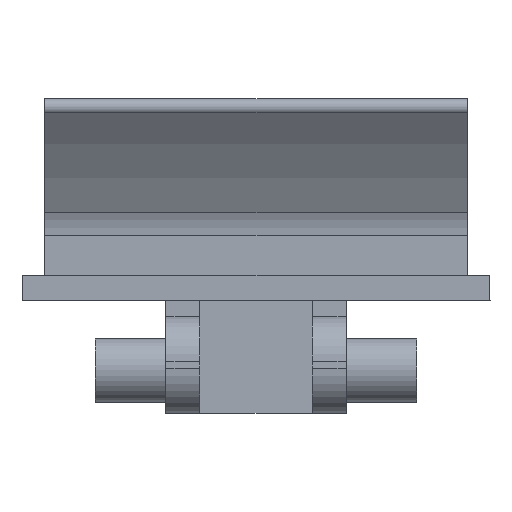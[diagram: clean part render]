
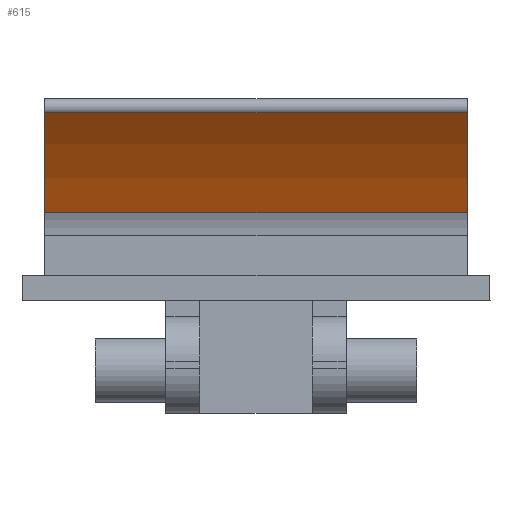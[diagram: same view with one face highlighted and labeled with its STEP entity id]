
A CAD part, front view. The second image highlights one B-rep face of the part: STEP entity #615.
In plain terms, the highlighted cylindrical face has radius 79.492 mm (diameter 158.984 mm), a partial arc.
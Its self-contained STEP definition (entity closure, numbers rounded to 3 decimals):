
#526 = VERTEX_POINT ( 'NONE', #1572 ) ;
#538 = ORIENTED_EDGE ( 'NONE', *, *, #546, .T. ) ;
#541 = EDGE_CURVE ( 'NONE', #526, #547, #1606, .T. ) ;
#545 = EDGE_LOOP ( 'NONE', ( #538, #627, #632, #614 ) ) ;
#546 = EDGE_CURVE ( 'NONE', #547, #609, #1573, .T. ) ;
#547 = VERTEX_POINT ( 'NONE', #1656 ) ;
#609 = VERTEX_POINT ( 'NONE', #1781 ) ;
#612 = EDGE_CURVE ( 'NONE', #613, #609, #1769, .T. ) ;
#613 = VERTEX_POINT ( 'NONE', #1774 ) ;
#614 = ORIENTED_EDGE ( 'NONE', *, *, #541, .T. ) ;
#615 = ADVANCED_FACE ( 'NONE', ( #1764 ), #1777, .F. ) ;
#627 = ORIENTED_EDGE ( 'NONE', *, *, #612, .F. ) ;
#628 = EDGE_CURVE ( 'NONE', #526, #613, #1812, .T. ) ;
#632 = ORIENTED_EDGE ( 'NONE', *, *, #628, .F. ) ;
#1572 = CARTESIAN_POINT ( 'NONE',  ( 242.6, 88.646, 61.433 ) ) ;
#1573 = CIRCLE ( 'NONE', #1648, 79.492 ) ;
#1606 = LINE ( 'NONE', #1655, #1654 ) ;
#1608 = CARTESIAN_POINT ( 'NONE',  ( 167.6, 27.505, 10.632 ) ) ;
#1646 = DIRECTION ( 'NONE',  ( 0., 0., -1. ) ) ;
#1647 = DIRECTION ( 'NONE',  ( -1., 0., 0. ) ) ;
#1648 = AXIS2_PLACEMENT_3D ( 'NONE', #1608, #1647, #1646 ) ;
#1653 = DIRECTION ( 'NONE',  ( -1., 0., 0. ) ) ;
#1654 = VECTOR ( 'NONE', #1653, 1000. ) ;
#1655 = CARTESIAN_POINT ( 'NONE',  ( 167.6, 88.646, 61.433 ) ) ;
#1656 = CARTESIAN_POINT ( 'NONE',  ( 167.6, 88.646, 61.433 ) ) ;
#1759 = DIRECTION ( 'NONE',  ( 0., 0., -1. ) ) ;
#1760 = DIRECTION ( 'NONE',  ( 1., 0., 0. ) ) ;
#1761 = CARTESIAN_POINT ( 'NONE',  ( 167.6, 27.505, 10.632 ) ) ;
#1764 = FACE_OUTER_BOUND ( 'NONE', #545, .T. ) ;
#1765 = DIRECTION ( 'NONE',  ( -1., 0., 0. ) ) ;
#1766 = VECTOR ( 'NONE', #1765, 1000. ) ;
#1768 = CARTESIAN_POINT ( 'NONE',  ( 167.6, 99.819, 43.642 ) ) ;
#1769 = LINE ( 'NONE', #1768, #1766 ) ;
#1770 = AXIS2_PLACEMENT_3D ( 'NONE', #1761, #1760, #1759 ) ;
#1774 = CARTESIAN_POINT ( 'NONE',  ( 242.6, 99.819, 43.642 ) ) ;
#1777 = CYLINDRICAL_SURFACE ( 'NONE', #1770, 79.492 ) ;
#1781 = CARTESIAN_POINT ( 'NONE',  ( 167.6, 99.819, 43.642 ) ) ;
#1805 = DIRECTION ( 'NONE',  ( 0., 0., -1. ) ) ;
#1806 = DIRECTION ( 'NONE',  ( -1., 0., 0. ) ) ;
#1807 = CARTESIAN_POINT ( 'NONE',  ( 242.6, 27.505, 10.632 ) ) ;
#1808 = AXIS2_PLACEMENT_3D ( 'NONE', #1807, #1806, #1805 ) ;
#1812 = CIRCLE ( 'NONE', #1808, 79.492 ) ;
